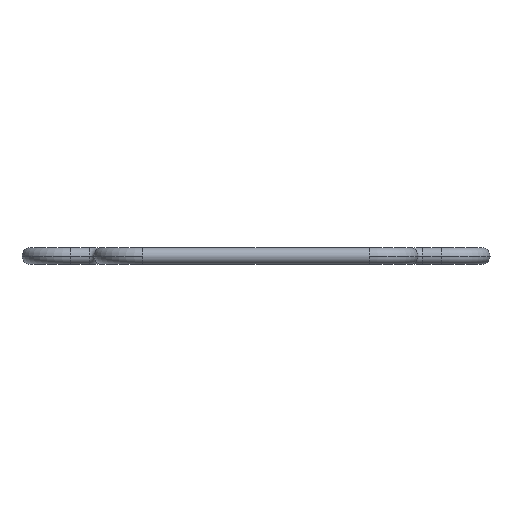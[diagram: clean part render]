
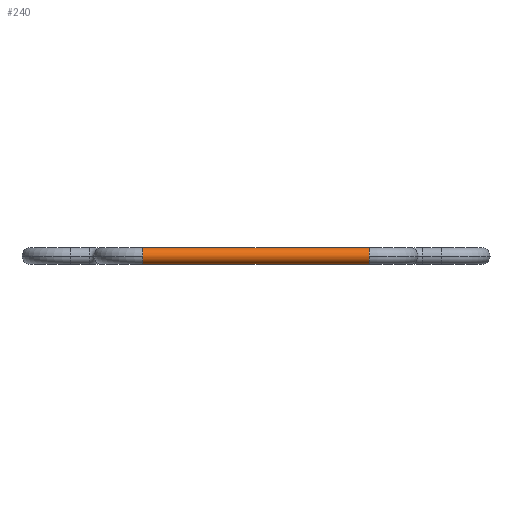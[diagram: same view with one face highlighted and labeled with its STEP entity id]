
A CAD part, left-side view. The second image highlights one B-rep face of the part: STEP entity #240.
In plain terms, the highlighted cylindrical face has radius 1 mm (diameter 2 mm), a partial arc.
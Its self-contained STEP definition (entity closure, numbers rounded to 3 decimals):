
#5 = EDGE_CURVE ( 'NONE', #529, #1502, #1429, .T. ) ;
#17 = CIRCLE ( 'NONE', #646, 1. ) ;
#46 = CIRCLE ( 'NONE', #640, 1. ) ;
#57 = CARTESIAN_POINT ( 'NONE',  ( -30.25, 13.9, -1. ) ) ;
#180 = DIRECTION ( 'NONE',  ( 0., 0., -1. ) ) ;
#182 = CARTESIAN_POINT ( 'NONE',  ( -30.25, 13.9, 0. ) ) ;
#218 = CYLINDRICAL_SURFACE ( 'NONE', #879, 1. ) ;
#240 = ADVANCED_FACE ( 'NONE', ( #531 ), #218, .T. ) ;
#286 = CARTESIAN_POINT ( 'NONE',  ( -30.25, -13.9, 0. ) ) ;
#300 = DIRECTION ( 'NONE',  ( 0., 1., 0. ) ) ;
#320 = CARTESIAN_POINT ( 'NONE',  ( -31.25, 13.9, 0. ) ) ;
#325 = CARTESIAN_POINT ( 'NONE',  ( -30.25, 13.9, 1. ) ) ;
#334 = EDGE_LOOP ( 'NONE', ( #364, #773, #1078, #871, #736, #1121 ) ) ;
#343 = AXIS2_PLACEMENT_3D ( 'NONE', #855, #868, #867 ) ;
#357 = VECTOR ( 'NONE', #1508, 1000. ) ;
#364 = ORIENTED_EDGE ( 'NONE', *, *, #621, .F. ) ;
#427 = VERTEX_POINT ( 'NONE', #505 ) ;
#505 = CARTESIAN_POINT ( 'NONE',  ( -30.25, -13.9, 1. ) ) ;
#529 = VERTEX_POINT ( 'NONE', #57 ) ;
#531 = FACE_OUTER_BOUND ( 'NONE', #334, .T. ) ;
#588 = CIRCLE ( 'NONE', #343, 1. ) ;
#621 = EDGE_CURVE ( 'NONE', #819, #529, #1107, .T. ) ;
#638 = EDGE_CURVE ( 'NONE', #427, #1506, #1025, .T. ) ;
#640 = AXIS2_PLACEMENT_3D ( 'NONE', #1331, #1326, #1322 ) ;
#646 = AXIS2_PLACEMENT_3D ( 'NONE', #1345, #1344, #1342 ) ;
#662 = VECTOR ( 'NONE', #1514, 1000. ) ;
#667 = CARTESIAN_POINT ( 'NONE',  ( -31.25, -13.9, 0. ) ) ;
#736 = ORIENTED_EDGE ( 'NONE', *, *, #811, .F. ) ;
#773 = ORIENTED_EDGE ( 'NONE', *, *, #1163, .T. ) ;
#811 = EDGE_CURVE ( 'NONE', #1502, #1506, #17, .T. ) ;
#819 = VERTEX_POINT ( 'NONE', #1381 ) ;
#836 = EDGE_CURVE ( 'NONE', #1292, #427, #46, .T. ) ;
#855 = CARTESIAN_POINT ( 'NONE',  ( -30.25, -13.9, 0. ) ) ;
#867 = DIRECTION ( 'NONE',  ( 0., 0., -1. ) ) ;
#868 = DIRECTION ( 'NONE',  ( 0., 1., 0. ) ) ;
#871 = ORIENTED_EDGE ( 'NONE', *, *, #638, .T. ) ;
#879 = AXIS2_PLACEMENT_3D ( 'NONE', #286, #1127, #1084 ) ;
#1025 = LINE ( 'NONE', #1477, #662 ) ;
#1078 = ORIENTED_EDGE ( 'NONE', *, *, #836, .T. ) ;
#1082 = AXIS2_PLACEMENT_3D ( 'NONE', #182, #300, #180 ) ;
#1084 = DIRECTION ( 'NONE',  ( 0., 0., 1. ) ) ;
#1107 = LINE ( 'NONE', #1505, #357 ) ;
#1121 = ORIENTED_EDGE ( 'NONE', *, *, #5, .F. ) ;
#1127 = DIRECTION ( 'NONE',  ( 0., 1., 0. ) ) ;
#1163 = EDGE_CURVE ( 'NONE', #819, #1292, #588, .T. ) ;
#1292 = VERTEX_POINT ( 'NONE', #667 ) ;
#1322 = DIRECTION ( 'NONE',  ( 0., 0., -1. ) ) ;
#1326 = DIRECTION ( 'NONE',  ( 0., 1., 0. ) ) ;
#1331 = CARTESIAN_POINT ( 'NONE',  ( -30.25, -13.9, 0. ) ) ;
#1342 = DIRECTION ( 'NONE',  ( 0., 0., -1. ) ) ;
#1344 = DIRECTION ( 'NONE',  ( 0., 1., 0. ) ) ;
#1345 = CARTESIAN_POINT ( 'NONE',  ( -30.25, 13.9, 0. ) ) ;
#1381 = CARTESIAN_POINT ( 'NONE',  ( -30.25, -13.9, -1. ) ) ;
#1429 = CIRCLE ( 'NONE', #1082, 1. ) ;
#1477 = CARTESIAN_POINT ( 'NONE',  ( -30.25, -13.9, 1. ) ) ;
#1502 = VERTEX_POINT ( 'NONE', #320 ) ;
#1505 = CARTESIAN_POINT ( 'NONE',  ( -30.25, -13.9, -1. ) ) ;
#1506 = VERTEX_POINT ( 'NONE', #325 ) ;
#1508 = DIRECTION ( 'NONE',  ( 0., 1., 0. ) ) ;
#1514 = DIRECTION ( 'NONE',  ( 0., 1., 0. ) ) ;
